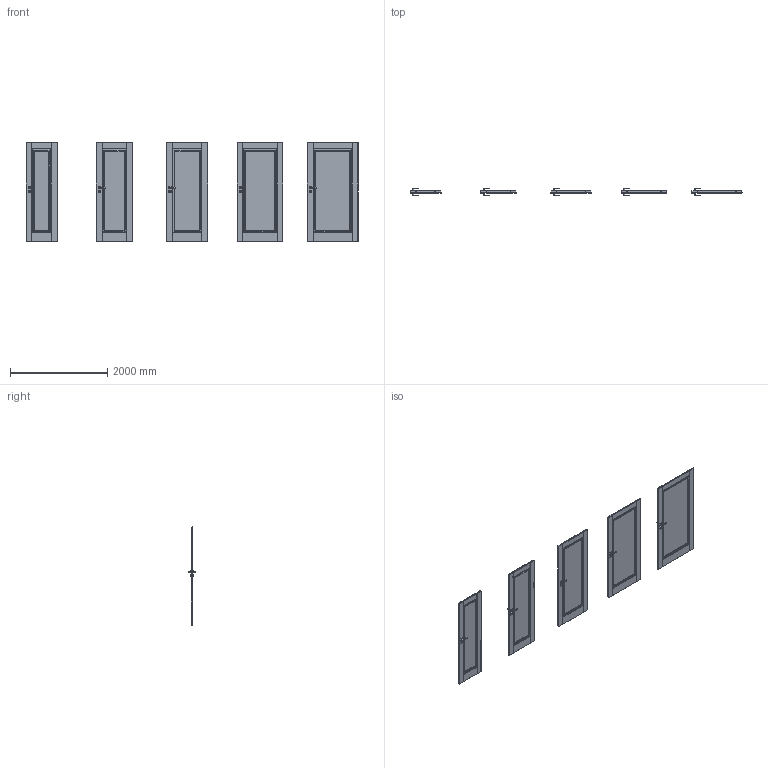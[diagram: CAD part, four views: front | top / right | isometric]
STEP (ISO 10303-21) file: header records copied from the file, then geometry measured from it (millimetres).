
FILE_DESCRIPTION(/* description */ (''),/* implementation_level */ '2;1');
FILE_NAME(/* name */ '050210_A_2-Skrzydło SEVILLA model pełne_ polska norma _PN__ przylgowe..stp',/* time_stamp */ '2025-01-08T14:04:20+01:00',/* author */ (''),/* organization */ (''),/* preprocessor_version */ 'ST-DEVELOPER v16',/* originating_system */ 'SIEMENS PLM Software NX 11.0',/* authorisation */ '');
FILE_SCHEMA (('AUTOMOTIVE_DESIGN { 1 0 10303 214 3 1 1 1 }'));
Products named in the file (1): bkni43344386rpnt
Bounding box: 6844 x 153.13 x 2030 mm (x, y, z)
Volume: 214053195.8 mm3; surface area: 25842050.5 mm2
Topology: 80 solids, 80 shells, 2595 faces, 6665 edges, 4130 vertices
Faces by surface type: plane 1370, cylinder 925, bspline 160, sphere 140
Entity records: 85926 total; most frequent: CARTESIAN_POINT 24535, ORIENTED_EDGE 13050, DIRECTION 11927, EDGE_CURVE 6525, LINE 4315, VECTOR 4315, VERTEX_POINT 4130, AXIS2_PLACEMENT_3D 3806
